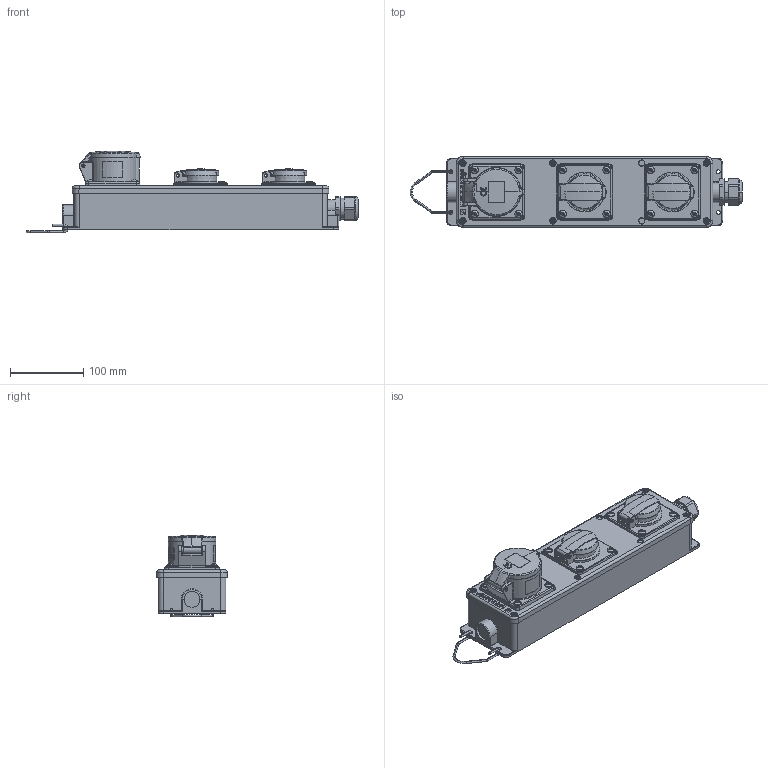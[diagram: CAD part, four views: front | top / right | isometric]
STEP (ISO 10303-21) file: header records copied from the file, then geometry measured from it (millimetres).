
FILE_DESCRIPTION((''),'2;1');
FILE_NAME('96438_SW0001','2018-05-09T',('gisse'),('MENNEKES'),'PRO/ENGINEER BY PARAMETRIC TECHNOLOGY CORPORATION, 2015440','PRO/ENGINEER BY PARAMETRIC TECHNOLOGY CORPORATION, 2015440','');
FILE_SCHEMA(('AUTOMOTIVE_DESIGN { 1 0 10303 214 1 1 1 1 }'));
Products named in the file (1): 96438_SW0001
Bounding box: 453.47 x 97 x 111.6 mm (x, y, z)
Volume: 2270602.8 mm3; surface area: 172651.8 mm2
Topology: 2 solids, 2 shells, 2236 faces, 5872 edges, 3709 vertices
Faces by surface type: plane 1103, cylinder 490, torus 232, bspline 182, cone 173, sphere 56
Entity records: 105740 total; most frequent: CARTESIAN_POINT 28058, ORIENTED_EDGE 11676, DIRECTION 10118, EDGE_CURVE 5838, FILL_AREA_STYLE_COLOUR 4084, FILL_AREA_STYLE 4084, SURFACE_STYLE_FILL_AREA 4084, SURFACE_SIDE_STYLE 4084
